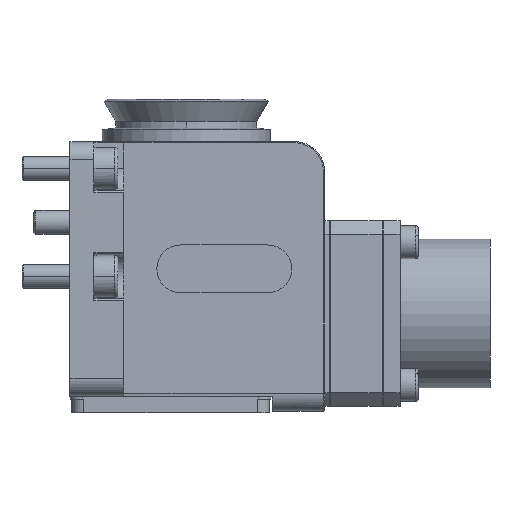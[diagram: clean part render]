
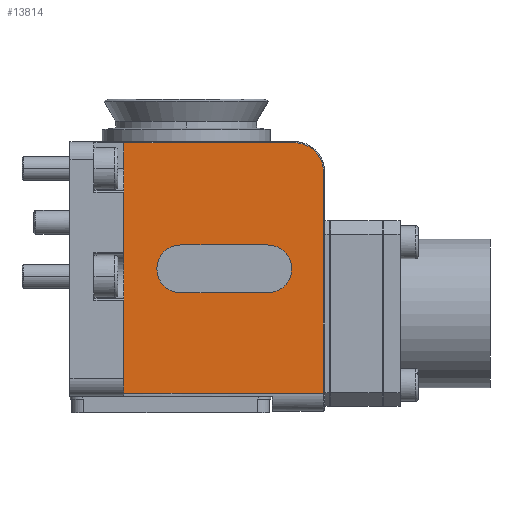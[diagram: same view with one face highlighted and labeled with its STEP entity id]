
A CAD part, left-side view. The second image highlights one B-rep face of the part: STEP entity #13814.
In plain terms, the highlighted planar face has unit normal (-1, 0, 0).
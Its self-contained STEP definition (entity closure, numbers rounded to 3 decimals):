
#908 = VECTOR ( 'NONE', #18204, 1000. ) ;
#1327 = VERTEX_POINT ( 'NONE', #13928 ) ;
#2349 = VERTEX_POINT ( 'NONE', #24605 ) ;
#4179 = DIRECTION ( 'NONE',  ( 0., -1., 0. ) ) ;
#5888 = CARTESIAN_POINT ( 'NONE',  ( -20., 12.25, -42. ) ) ;
#6327 = CARTESIAN_POINT ( 'NONE',  ( -20., 12.25, -45. ) ) ;
#6734 = CARTESIAN_POINT ( 'NONE',  ( -20., 12.25, -42. ) ) ;
#7111 = VERTEX_POINT ( 'NONE', #28385 ) ;
#7327 = CIRCLE ( 'NONE', #25521, 4. ) ;
#8534 = VECTOR ( 'NONE', #36388, 1000. ) ;
#10715 = CARTESIAN_POINT ( 'NONE',  ( -20., 12.25, -25.25 ) ) ;
#10763 = CARTESIAN_POINT ( 'NONE',  ( -20., 2.75, -25.25 ) ) ;
#10989 = PLANE ( 'NONE',  #17810 ) ;
#11107 = CARTESIAN_POINT ( 'NONE',  ( -20., 12.25, -17.25 ) ) ;
#11168 = DIRECTION ( 'NONE',  ( 1., 0., 0. ) ) ;
#11599 = CIRCLE ( 'NONE', #25373, 4.8 ) ;
#11845 = CIRCLE ( 'NONE', #19352, 4. ) ;
#12607 = LINE ( 'NONE', #6327, #8534 ) ;
#13049 = VERTEX_POINT ( 'NONE', #34537 ) ;
#13203 = ORIENTED_EDGE ( 'NONE', *, *, #38303, .T. ) ;
#13266 = DIRECTION ( 'NONE',  ( 1., 0., 0. ) ) ;
#13284 = DIRECTION ( 'NONE',  ( 1., 0., 0. ) ) ;
#13665 = DIRECTION ( 'NONE',  ( 0., 1., 0. ) ) ;
#13671 = VECTOR ( 'NONE', #4179, 1000. ) ;
#13814 = ADVANCED_FACE ( 'NONE', ( #22589, #31824 ), #10989, .T. ) ;
#13928 = CARTESIAN_POINT ( 'NONE',  ( -20., -15.75, -21.25 ) ) ;
#13983 = AXIS2_PLACEMENT_3D ( 'NONE', #37510, #11168, #28642 ) ;
#14125 = DIRECTION ( 'NONE',  ( -1., 0., 0. ) ) ;
#14347 = CARTESIAN_POINT ( 'NONE',  ( -20., 0., -0.2 ) ) ;
#14351 = ORIENTED_EDGE ( 'NONE', *, *, #30217, .F. ) ;
#14372 = EDGE_LOOP ( 'NONE', ( #13203, #37704, #35084, #21884, #27004 ) ) ;
#15495 = ORIENTED_EDGE ( 'NONE', *, *, #26250, .T. ) ;
#16211 = CARTESIAN_POINT ( 'NONE',  ( -20., -16.25, -5. ) ) ;
#16231 = DIRECTION ( 'NONE',  ( 0., -1., 0. ) ) ;
#17093 = EDGE_CURVE ( 'NONE', #1327, #20395, #11845, .T. ) ;
#17662 = EDGE_LOOP ( 'NONE', ( #15495, #36478, #32323, #35375, #14351 ) ) ;
#17810 = AXIS2_PLACEMENT_3D ( 'NONE', #34588, #14125, #32424 ) ;
#17963 = VECTOR ( 'NONE', #37919, 1000. ) ;
#18204 = DIRECTION ( 'NONE',  ( 0., 0., 1. ) ) ;
#18839 = VERTEX_POINT ( 'NONE', #10763 ) ;
#19008 = CIRCLE ( 'NONE', #13983, 4. ) ;
#19351 = DIRECTION ( 'NONE',  ( 0., 0., -1. ) ) ;
#19352 = AXIS2_PLACEMENT_3D ( 'NONE', #31684, #22267, #31506 ) ;
#19562 = CARTESIAN_POINT ( 'NONE',  ( -20., 2.75, -21.25 ) ) ;
#20395 = VERTEX_POINT ( 'NONE', #20693 ) ;
#20693 = CARTESIAN_POINT ( 'NONE',  ( -20., -11.75, -25.25 ) ) ;
#21261 = CARTESIAN_POINT ( 'NONE',  ( -20., -16.25, -0.2 ) ) ;
#21884 = ORIENTED_EDGE ( 'NONE', *, *, #32889, .T. ) ;
#21915 = CARTESIAN_POINT ( 'NONE',  ( -20., -21.05, -45. ) ) ;
#22267 = DIRECTION ( 'NONE',  ( 1., 0., 0. ) ) ;
#22436 = EDGE_CURVE ( 'NONE', #20395, #18839, #36866, .T. ) ;
#22589 = FACE_BOUND ( 'NONE', #14372, .T. ) ;
#23085 = DIRECTION ( 'NONE',  ( 0., -1., 0. ) ) ;
#23860 = EDGE_CURVE ( 'NONE', #2349, #24864, #36075, .T. ) ;
#24605 = CARTESIAN_POINT ( 'NONE',  ( -20., -21.05, -42. ) ) ;
#24864 = VERTEX_POINT ( 'NONE', #35323 ) ;
#25373 = AXIS2_PLACEMENT_3D ( 'NONE', #16211, #13266, #19351 ) ;
#25521 = AXIS2_PLACEMENT_3D ( 'NONE', #19562, #13284, #16231 ) ;
#25777 = EDGE_CURVE ( 'NONE', #38127, #7111, #12607, .T. ) ;
#25835 = LINE ( 'NONE', #11107, #33502 ) ;
#26250 = EDGE_CURVE ( 'NONE', #37667, #7111, #32632, .T. ) ;
#27004 = ORIENTED_EDGE ( 'NONE', *, *, #37190, .T. ) ;
#27556 = LINE ( 'NONE', #6734, #13671 ) ;
#27899 = VECTOR ( 'NONE', #13665, 1000. ) ;
#28385 = CARTESIAN_POINT ( 'NONE',  ( -20., 12.25, -0.2 ) ) ;
#28642 = DIRECTION ( 'NONE',  ( 0., -1., 0. ) ) ;
#30217 = EDGE_CURVE ( 'NONE', #37667, #24864, #11599, .T. ) ;
#30360 = CARTESIAN_POINT ( 'NONE',  ( -20., 2.75, -17.25 ) ) ;
#31506 = DIRECTION ( 'NONE',  ( 0., -1., 0. ) ) ;
#31684 = CARTESIAN_POINT ( 'NONE',  ( -20., -11.75, -21.25 ) ) ;
#31824 = FACE_OUTER_BOUND ( 'NONE', #17662, .T. ) ;
#32323 = ORIENTED_EDGE ( 'NONE', *, *, #34023, .T. ) ;
#32424 = DIRECTION ( 'NONE',  ( 0., -1., 0. ) ) ;
#32632 = LINE ( 'NONE', #14347, #17963 ) ;
#32889 = EDGE_CURVE ( 'NONE', #18839, #35080, #7327, .T. ) ;
#33502 = VECTOR ( 'NONE', #23085, 1000. ) ;
#34023 = EDGE_CURVE ( 'NONE', #38127, #2349, #27556, .T. ) ;
#34537 = CARTESIAN_POINT ( 'NONE',  ( -20., -11.75, -17.25 ) ) ;
#34588 = CARTESIAN_POINT ( 'NONE',  ( -20., 12.25, -45. ) ) ;
#35080 = VERTEX_POINT ( 'NONE', #30360 ) ;
#35084 = ORIENTED_EDGE ( 'NONE', *, *, #22436, .T. ) ;
#35323 = CARTESIAN_POINT ( 'NONE',  ( -20., -21.05, -5. ) ) ;
#35375 = ORIENTED_EDGE ( 'NONE', *, *, #23860, .T. ) ;
#36075 = LINE ( 'NONE', #21915, #908 ) ;
#36388 = DIRECTION ( 'NONE',  ( 0., 0., 1. ) ) ;
#36478 = ORIENTED_EDGE ( 'NONE', *, *, #25777, .F. ) ;
#36866 = LINE ( 'NONE', #10715, #27899 ) ;
#37190 = EDGE_CURVE ( 'NONE', #35080, #13049, #25835, .T. ) ;
#37510 = CARTESIAN_POINT ( 'NONE',  ( -20., -11.75, -21.25 ) ) ;
#37667 = VERTEX_POINT ( 'NONE', #21261 ) ;
#37704 = ORIENTED_EDGE ( 'NONE', *, *, #17093, .T. ) ;
#37919 = DIRECTION ( 'NONE',  ( 0., 1., 0. ) ) ;
#38127 = VERTEX_POINT ( 'NONE', #5888 ) ;
#38303 = EDGE_CURVE ( 'NONE', #13049, #1327, #19008, .T. ) ;
